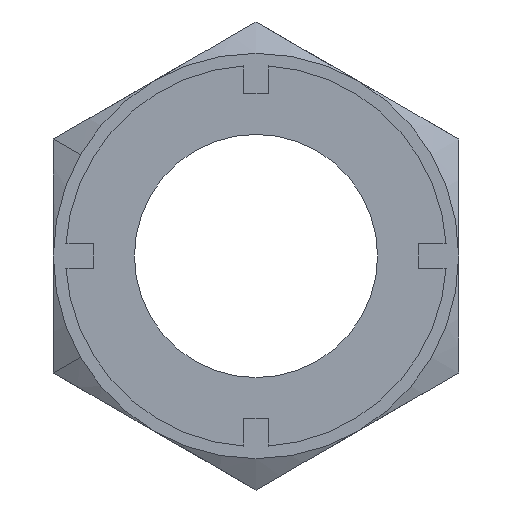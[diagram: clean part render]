
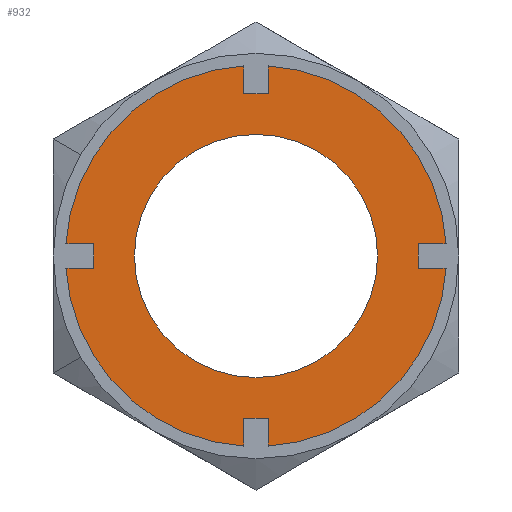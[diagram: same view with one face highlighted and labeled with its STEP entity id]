
A CAD part, left-side view. The second image highlights one B-rep face of the part: STEP entity #932.
In plain terms, the highlighted planar face has unit normal (-1, 0, 0).
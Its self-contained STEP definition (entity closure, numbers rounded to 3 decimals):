
#130=CARTESIAN_POINT('',(-33.0,0.,15.0));
#131=VERTEX_POINT('',#130);
#140=CARTESIAN_POINT('',(-33.0,15.0,0.0));
#141=VERTEX_POINT('',#140);
#142=CARTESIAN_POINT('',(-33.0,0.0,0.0));
#143=DIRECTION('',(1.0,0.0,0.0));
#144=DIRECTION('',(0.0,1.0,0.0));
#145=AXIS2_PLACEMENT_3D('',#142,#143,#144);
#146=CIRCLE('',#145,15.0);
#147=EDGE_CURVE('',#141,#131,#146,.T.);
#332=CARTESIAN_POINT('',(-33.0,0.,-15.0));
#333=VERTEX_POINT('',#332);
#342=CARTESIAN_POINT('',(-33.0,-15.0,0.));
#343=VERTEX_POINT('',#342);
#344=CARTESIAN_POINT('',(-33.0,0.0,0.0));
#345=DIRECTION('',(1.0,0.0,0.0));
#346=DIRECTION('',(0.0,1.0,0.0));
#347=AXIS2_PLACEMENT_3D('',#344,#345,#346);
#348=CIRCLE('',#347,15.0);
#349=EDGE_CURVE('',#343,#333,#348,.T.);
#383=CARTESIAN_POINT('',(-33.0,0.0,0.0));
#384=DIRECTION('',(1.0,0.0,0.0));
#385=DIRECTION('',(0.0,1.0,0.0));
#386=AXIS2_PLACEMENT_3D('',#383,#384,#385);
#387=CIRCLE('',#386,15.0);
#388=EDGE_CURVE('',#333,#141,#387,.T.);
#400=CARTESIAN_POINT('',(-33.0,23.452,1.5));
#401=VERTEX_POINT('',#400);
#416=CARTESIAN_POINT('',(-33.0,20.0,1.5));
#417=VERTEX_POINT('',#416);
#424=CARTESIAN_POINT('',(-33.0,23.452,1.5));
#425=DIRECTION('',(0.0,-1.0,0.0));
#426=VECTOR('',#425,3.452);
#427=LINE('',#424,#426);
#428=EDGE_CURVE('',#401,#417,#427,.T.);
#438=CARTESIAN_POINT('',(-33.0,23.452,-1.5));
#439=VERTEX_POINT('',#438);
#448=CARTESIAN_POINT('',(-33.0,20.0,-1.5));
#449=VERTEX_POINT('',#448);
#450=CARTESIAN_POINT('',(-33.0,20.0,-1.5));
#451=DIRECTION('',(0.0,1.0,0.0));
#452=VECTOR('',#451,3.452);
#453=LINE('',#450,#452);
#454=EDGE_CURVE('',#449,#439,#453,.T.);
#485=CARTESIAN_POINT('',(-33.0,20.0,1.5));
#486=DIRECTION('',(0.0,0.0,-1.0));
#487=VECTOR('',#486,3.);
#488=LINE('',#485,#487);
#489=EDGE_CURVE('',#417,#449,#488,.T.);
#502=CARTESIAN_POINT('',(-33.0,-1.5,23.452));
#503=VERTEX_POINT('',#502);
#518=CARTESIAN_POINT('',(-33.0,-1.5,20.0));
#519=VERTEX_POINT('',#518);
#526=CARTESIAN_POINT('',(-33.0,-1.5,23.452));
#527=DIRECTION('',(0.0,0.0,-1.0));
#528=VECTOR('',#527,3.452);
#529=LINE('',#526,#528);
#530=EDGE_CURVE('',#503,#519,#529,.T.);
#540=CARTESIAN_POINT('',(-33.0,1.5,23.452));
#541=VERTEX_POINT('',#540);
#550=CARTESIAN_POINT('',(-33.0,1.5,20.0));
#551=VERTEX_POINT('',#550);
#552=CARTESIAN_POINT('',(-33.0,1.5,20.0));
#553=DIRECTION('',(0.0,0.0,1.0));
#554=VECTOR('',#553,3.452);
#555=LINE('',#552,#554);
#556=EDGE_CURVE('',#551,#541,#555,.T.);
#587=CARTESIAN_POINT('',(-33.0,-1.5,20.0));
#588=DIRECTION('',(0.0,1.0,0.0));
#589=VECTOR('',#588,3.);
#590=LINE('',#587,#589);
#591=EDGE_CURVE('',#519,#551,#590,.T.);
#604=CARTESIAN_POINT('',(-33.0,-23.452,-1.5));
#605=VERTEX_POINT('',#604);
#620=CARTESIAN_POINT('',(-33.0,-20.0,-1.5));
#621=VERTEX_POINT('',#620);
#628=CARTESIAN_POINT('',(-33.0,-23.452,-1.5));
#629=DIRECTION('',(0.0,1.0,0.0));
#630=VECTOR('',#629,3.452);
#631=LINE('',#628,#630);
#632=EDGE_CURVE('',#605,#621,#631,.T.);
#642=CARTESIAN_POINT('',(-33.0,-23.452,1.5));
#643=VERTEX_POINT('',#642);
#652=CARTESIAN_POINT('',(-33.0,-20.0,1.5));
#653=VERTEX_POINT('',#652);
#654=CARTESIAN_POINT('',(-33.0,-20.0,1.5));
#655=DIRECTION('',(0.0,-1.0,0.0));
#656=VECTOR('',#655,3.452);
#657=LINE('',#654,#656);
#658=EDGE_CURVE('',#653,#643,#657,.T.);
#689=CARTESIAN_POINT('',(-33.0,-20.0,-1.5));
#690=DIRECTION('',(0.0,0.0,1.0));
#691=VECTOR('',#690,3.);
#692=LINE('',#689,#691);
#693=EDGE_CURVE('',#621,#653,#692,.T.);
#706=CARTESIAN_POINT('',(-33.0,1.5,-23.452));
#707=VERTEX_POINT('',#706);
#722=CARTESIAN_POINT('',(-33.0,1.5,-20.0));
#723=VERTEX_POINT('',#722);
#730=CARTESIAN_POINT('',(-33.0,1.5,-23.452));
#731=DIRECTION('',(0.0,0.0,1.0));
#732=VECTOR('',#731,3.452);
#733=LINE('',#730,#732);
#734=EDGE_CURVE('',#707,#723,#733,.T.);
#744=CARTESIAN_POINT('',(-33.0,-1.5,-23.452));
#745=VERTEX_POINT('',#744);
#754=CARTESIAN_POINT('',(-33.0,-1.5,-20.0));
#755=VERTEX_POINT('',#754);
#756=CARTESIAN_POINT('',(-33.0,-1.5,-20.0));
#757=DIRECTION('',(0.0,0.0,-1.0));
#758=VECTOR('',#757,3.452);
#759=LINE('',#756,#758);
#760=EDGE_CURVE('',#755,#745,#759,.T.);
#791=CARTESIAN_POINT('',(-33.0,1.5,-20.0));
#792=DIRECTION('',(0.0,-1.0,0.0));
#793=VECTOR('',#792,3.);
#794=LINE('',#791,#793);
#795=EDGE_CURVE('',#723,#755,#794,.T.);
#807=CARTESIAN_POINT('',(-33.0,0.0,0.0));
#808=DIRECTION('',(1.0,0.0,0.0));
#809=DIRECTION('',(0.0,1.0,0.0));
#810=AXIS2_PLACEMENT_3D('',#807,#808,#809);
#811=CIRCLE('',#810,23.5);
#812=EDGE_CURVE('',#605,#745,#811,.T.);
#831=CARTESIAN_POINT('',(-33.0,0.0,0.0));
#832=DIRECTION('',(1.0,0.0,0.0));
#833=DIRECTION('',(0.0,1.0,0.0));
#834=AXIS2_PLACEMENT_3D('',#831,#832,#833);
#835=CIRCLE('',#834,23.5);
#836=EDGE_CURVE('',#503,#643,#835,.T.);
#863=CARTESIAN_POINT('',(-33.0,0.0,0.0));
#864=DIRECTION('',(1.0,0.0,0.0));
#865=DIRECTION('',(0.0,1.0,0.0));
#866=AXIS2_PLACEMENT_3D('',#863,#864,#865);
#867=CIRCLE('',#866,23.5);
#868=EDGE_CURVE('',#707,#439,#867,.T.);
#879=CARTESIAN_POINT('',(-33.0,0.0,0.0));
#880=DIRECTION('',(1.0,0.0,0.0));
#881=DIRECTION('',(0.0,1.0,0.0));
#882=AXIS2_PLACEMENT_3D('',#879,#880,#881);
#883=CIRCLE('',#882,23.5);
#884=EDGE_CURVE('',#401,#541,#883,.T.);
#897=CARTESIAN_POINT('',(-33.0,-25.797,-25.797));
#898=DIRECTION('',(-1.0,0.0,0.0));
#899=DIRECTION('',(0.0,0.0,1.0));
#900=AXIS2_PLACEMENT_3D('',#897,#898,#899);
#901=PLANE('',#900);
#902=ORIENTED_EDGE('',*,*,#428,.T.);
#903=ORIENTED_EDGE('',*,*,#489,.T.);
#904=ORIENTED_EDGE('',*,*,#454,.T.);
#905=ORIENTED_EDGE('',*,*,#868,.F.);
#906=ORIENTED_EDGE('',*,*,#734,.T.);
#907=ORIENTED_EDGE('',*,*,#795,.T.);
#908=ORIENTED_EDGE('',*,*,#760,.T.);
#909=ORIENTED_EDGE('',*,*,#812,.F.);
#910=ORIENTED_EDGE('',*,*,#632,.T.);
#911=ORIENTED_EDGE('',*,*,#693,.T.);
#912=ORIENTED_EDGE('',*,*,#658,.T.);
#913=ORIENTED_EDGE('',*,*,#836,.F.);
#914=ORIENTED_EDGE('',*,*,#530,.T.);
#915=ORIENTED_EDGE('',*,*,#591,.T.);
#916=ORIENTED_EDGE('',*,*,#556,.T.);
#917=ORIENTED_EDGE('',*,*,#884,.F.);
#918=EDGE_LOOP('',(#902,#903,#904,#905,#906,#907,#908,#909,#910,#911,#912,#913,#914,#915,#916,#917));
#919=FACE_OUTER_BOUND('',#918,.T.);
#920=ORIENTED_EDGE('',*,*,#147,.T.);
#921=CARTESIAN_POINT('',(-33.0,0.0,0.0));
#922=DIRECTION('',(1.0,0.0,0.0));
#923=DIRECTION('',(0.0,1.0,0.0));
#924=AXIS2_PLACEMENT_3D('',#921,#922,#923);
#925=CIRCLE('',#924,15.0);
#926=EDGE_CURVE('',#131,#343,#925,.T.);
#927=ORIENTED_EDGE('',*,*,#926,.T.);
#928=ORIENTED_EDGE('',*,*,#349,.T.);
#929=ORIENTED_EDGE('',*,*,#388,.T.);
#930=EDGE_LOOP('',(#920,#927,#928,#929));
#931=FACE_BOUND('',#930,.T.);
#932=ADVANCED_FACE('',(#919,#931),#901,.T.);
